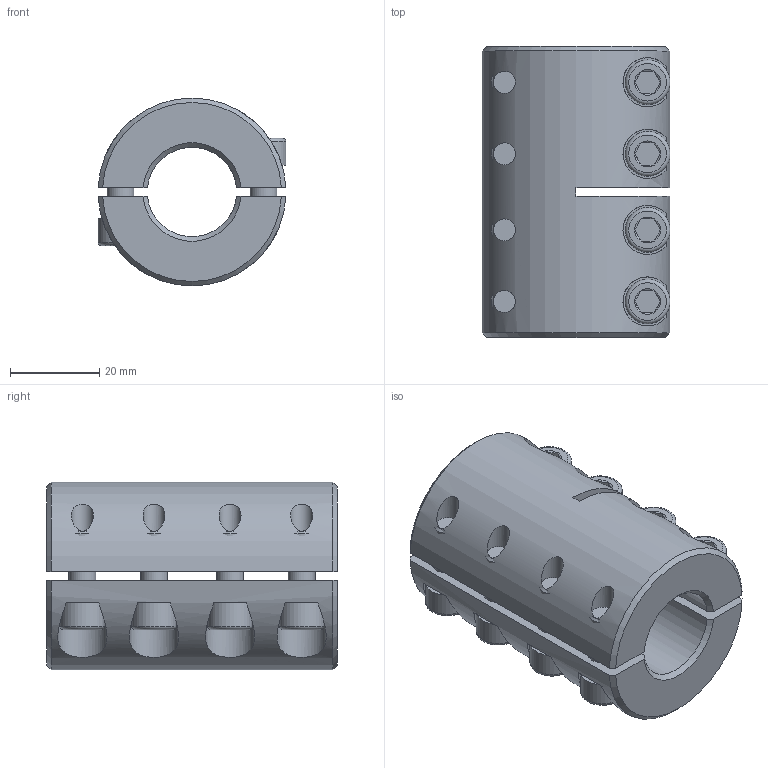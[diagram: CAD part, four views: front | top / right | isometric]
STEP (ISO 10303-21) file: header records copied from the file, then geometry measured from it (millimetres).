
FILE_DESCRIPTION( ( 'Unknown' ), '1' );
FILE_NAME( 'K:/Konstruktion/Fertigungszeichnungen/Schalenkupplung/KBST-G/KBST-G-20.stp', 'Unknown', ( 'Unknown' ), ( 'Unknown' ), 'PSStep 16.0.42', 'Unknown', ' ' );
FILE_SCHEMA( ( 'AUTOMOTIVE_DESIGN { 1 0 10303 214 1 1 1 1 }' ) );
Length unit declared in the file: millimetre
Products named in the file (4): Assem1; ISO EN DIN 4762 M6x16; KBST-G-20
Assembly tree (10 placements, depth 2):
  Assem1
    ISO EN DIN 4762 M6x16  x8
    KBST-G-20
    KBST-G-20
Bounding box: 42 x 65 x 42 mm (x, y, z)
Volume: 63689.5 mm3; surface area: 25962.9 mm2
Topology: 10 solids, 10 shells, 260 faces, 496 edges, 296 vertices
Faces by surface type: plane 120, cone 64, cylinder 60, torus 16
Full cylindrical faces by diameter (mm): 4.917 x8, 5 x8, 6 x16, 7 x8, 10 x8
Entity records: 4066 total; most frequent: CARTESIAN_POINT 1432, DIRECTION 390, ORIENTED_EDGE 326, AXIS2_PLACEMENT_3D 169, EDGE_CURVE 163, EDGE_LOOP 152, VERTEX_POINT 119, FACE_OUTER_BOUND 107
